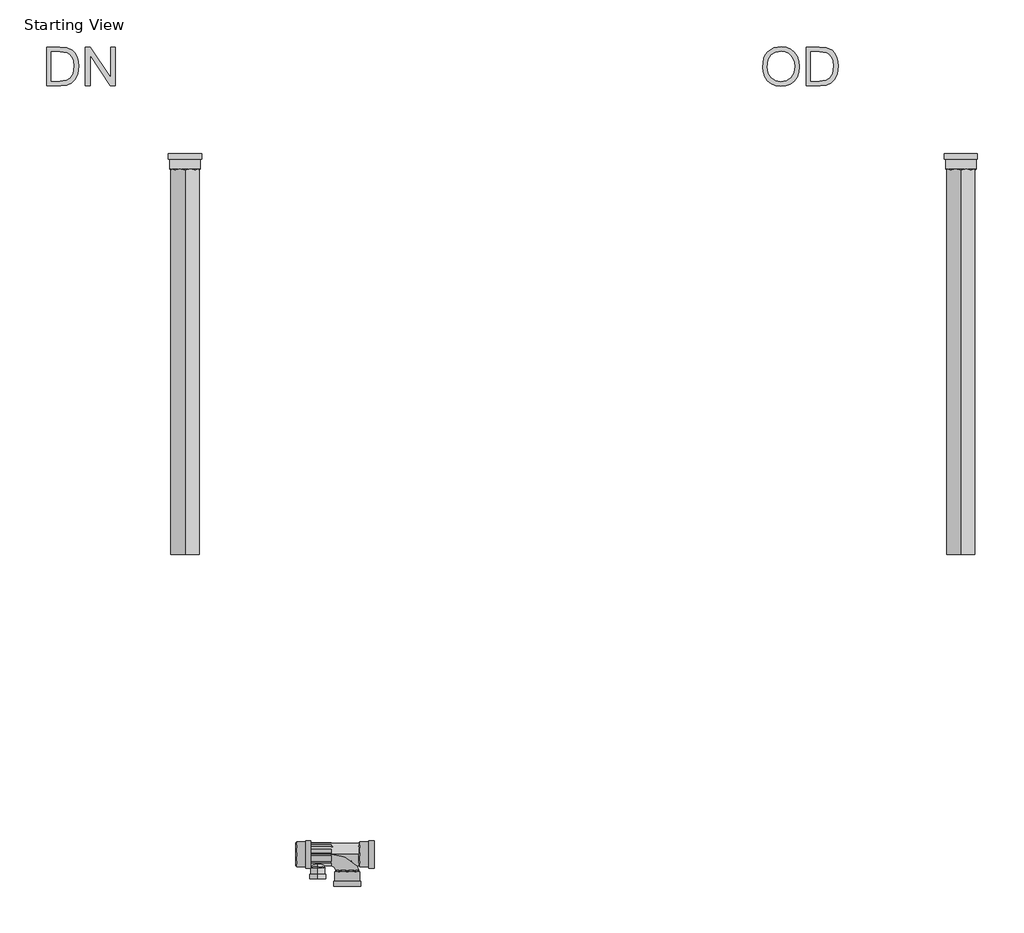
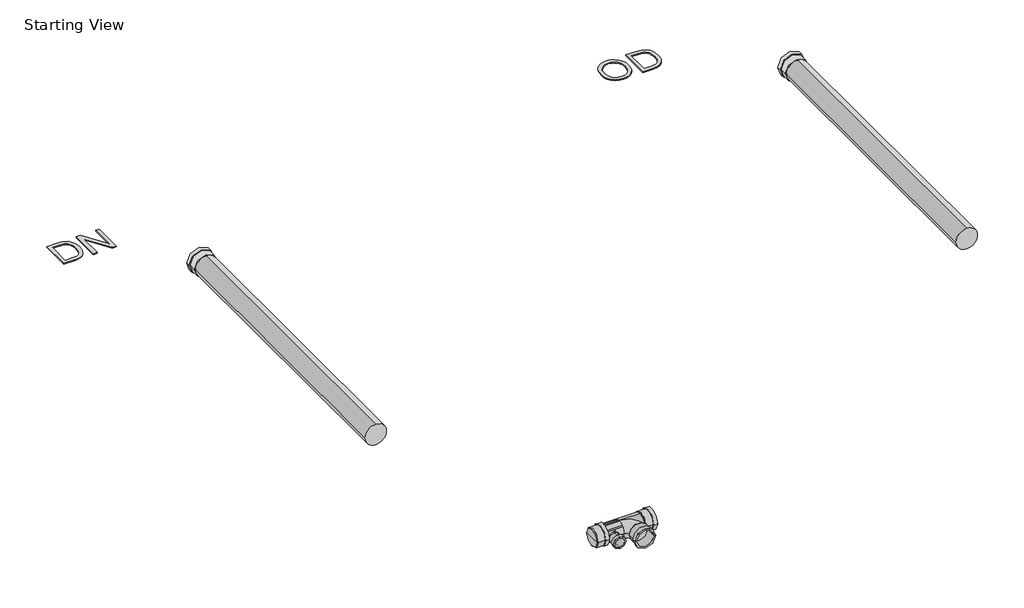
# One storey, incomplete: 4 pipe fittings, 2 pipe segments.
"""IFC4 building model written with IfcOpenShell, lengths in millimetres."""

import ifcopenshell
import ifcopenshell.guid

model = None  # the IFC model being written
_history = None  # IfcOwnerHistory: only IFC2X3 demands one
_inside = {}  # id of a spatial element -> (the spatial element, [elements in it])
_under = {}  # id of a project, library or spatial element -> (it, [spatial elements below it])
_declared = {}  # id of a project -> (the project, [libraries it declares])
_typed = {}  # id of a type object -> (the type object, [elements of that type])
_made_of = {}  # id of a material, layer set ... -> (it, [elements and type objects made of it])


def new_model(schema):
    """Start an empty IFC model of exactly this schema.

    Asked for "IFC4X3", IfcOpenShell would pick the latest addendum, in which some entities
    have other attributes; the version numbers below select the first issue.
    IFC2X3 requires an IfcOwnerHistory on every rooted entity: one is made here for all.
    """
    global model, _history
    if schema == "IFC4X3":
        model = ifcopenshell.file(schema_version=(4, 3, 0, 0))
    else:
        model = ifcopenshell.file(schema=schema)
    _inside.clear()
    _under.clear()
    _declared.clear()
    _typed.clear()
    _made_of.clear()
    _history = None
    if model.schema == "IFC2X3":
        org = make("IfcOrganization", Name="unknown")
        user = make(
            "IfcPersonAndOrganization",
            ThePerson=make("IfcPerson", FamilyName="unknown"),
            TheOrganization=org,
        )
        app = make(
            "IfcApplication",
            ApplicationDeveloper=org,
            Version="unknown",
            ApplicationFullName="unknown",
            ApplicationIdentifier="unknown",
        )
        _history = make(
            "IfcOwnerHistory",
            OwningUser=user,
            OwningApplication=app,
            ChangeAction="ADDED",
            CreationDate=0,
        )
    return model


def make(cls, **values):
    """One entity of the class cls with the attributes given. An attribute that is None is left unset."""
    return model.create_entity(
        cls, **{name: value for name, value in values.items() if value is not None}
    )


def rooted(cls, **values):
    """An entity with a GlobalId (a new one), such as an element, a storey or a relation."""
    return make(cls, GlobalId=ifcopenshell.guid.new(), OwnerHistory=_history, **values)


def si_unit(unit_type, name, prefix=None):
    """IfcSIUnit, for example si_unit("LENGTHUNIT", "METRE", prefix="MILLI")."""
    return make("IfcSIUnit", UnitType=unit_type, Prefix=prefix, Name=name)


def assignment(units):
    """IfcUnitAssignment: the units of a project."""
    return None if units is None else make("IfcUnitAssignment", Units=units)


def point(xyz):
    """IfcCartesianPoint."""
    return None if xyz is None else make("IfcCartesianPoint", Coordinates=xyz)


def direction(xyz):
    """IfcDirection."""
    return None if xyz is None else make("IfcDirection", DirectionRatios=xyz)


def frame(location, z_axis=None, x_axis=None):
    """IfcAxis2Placement3D, a coordinate frame: its origin and axes. An axis left out is left unset."""
    return make(
        "IfcAxis2Placement3D",
        Location=point(location),
        Axis=direction(z_axis),
        RefDirection=direction(x_axis),
    )


def frame_2d(location, x_axis=None):
    """IfcAxis2Placement2D, a coordinate frame in the plane: its origin and x axis."""
    return make(
        "IfcAxis2Placement2D", Location=point(location), RefDirection=direction(x_axis)
    )


def origin():
    """The frame at (0, 0, 0) with its axes left unset."""
    return frame((0.0, 0.0, 0.0))


def origin_with_axes():
    """The frame at (0, 0, 0) with the z axis (0, 0, 1) and the x axis (1, 0, 0) written out."""
    return frame((0.0, 0.0, 0.0), z_axis=(0.0, 0.0, 1.0), x_axis=(1.0, 0.0, 0.0))


def origin_2d():
    """The frame at (0, 0) in the plane with its x axis left unset."""
    return frame_2d((0.0, 0.0))


def place(relative_to, where):
    """IfcLocalPlacement: puts the frame where relative to a parent placement (None: the world)."""
    return make(
        "IfcLocalPlacement", PlacementRelTo=relative_to, RelativePlacement=where
    )


def context(
    kind, dimensions, precision=None, world=None, true_north=None, identifier=None
):
    """IfcGeometricRepresentationContext, for example the 3D "Model" context."""
    return make(
        "IfcGeometricRepresentationContext",
        ContextIdentifier=identifier,
        ContextType=kind,
        CoordinateSpaceDimension=dimensions,
        Precision=precision,
        WorldCoordinateSystem=world,
        TrueNorth=true_north,
    )


def project(units=None, contexts=None):
    """IfcProject with its units and contexts."""
    return rooted(
        "IfcProject",
        Name="project",
        RepresentationContexts=contexts,
        UnitsInContext=assignment(units),
    )


def spatial(cls, under=None, at=None, **own):
    """A site, building, storey or space (cls), placed at a placement, below another one or the project."""
    s = rooted(cls, ObjectPlacement=at, **own)
    if under is not None:
        _under.setdefault(under.id(), (under, []))[1].append(s)
    return s


def polyline(points):
    """IfcPolyline through the points."""
    return make("IfcPolyline", Points=[point(p) for p in points])


def circle_curve(where, radius):
    """IfcCircle in the frame where."""
    return make("IfcCircle", Position=where, Radius=radius)


def ellipse_curve(where, semi_axis1, semi_axis2):
    """IfcEllipse in the frame where."""
    return make(
        "IfcEllipse", Position=where, SemiAxis1=semi_axis1, SemiAxis2=semi_axis2
    )


def trimmed(basis, trim1, trim2, sense, master):
    """IfcTrimmedCurve: the piece of a basis curve between two trims."""
    return make(
        "IfcTrimmedCurve",
        BasisCurve=basis,
        Trim1=trim1,
        Trim2=trim2,
        SenseAgreement=sense,
        MasterRepresentation=master,
    )


def segment(curve, same_sense, transition):
    """IfcCompositeCurveSegment."""
    return make(
        "IfcCompositeCurveSegment",
        Transition=transition,
        SameSense=same_sense,
        ParentCurve=curve,
    )


def composite_curve(segments, self_intersect=None):
    """IfcCompositeCurve: segments joined end to end."""
    return make("IfcCompositeCurve", Segments=segments, SelfIntersect=self_intersect)


def outline(outer, holes=None, kind="AREA"):
    """IfcArbitraryClosedProfileDef: a profile drawn as a closed curve; with holes, ...WithVoids."""
    if holes is None:
        return make("IfcArbitraryClosedProfileDef", ProfileType=kind, OuterCurve=outer)
    return make(
        "IfcArbitraryProfileDefWithVoids",
        ProfileType=kind,
        OuterCurve=outer,
        InnerCurves=holes,
    )


def extrude(swept, where, along, depth):
    """IfcExtrudedAreaSolid: the profile swept, set in the frame where, extruded along a direction by depth."""
    return make(
        "IfcExtrudedAreaSolid",
        SweptArea=swept,
        Position=where,
        ExtrudedDirection=direction(along),
        Depth=depth,
    )


def shape(context_of_items, identifier, shape_type, items):
    """IfcShapeRepresentation: the items that make up one representation, for example the "Body"."""
    return make(
        "IfcShapeRepresentation",
        ContextOfItems=context_of_items,
        RepresentationIdentifier=identifier,
        RepresentationType=shape_type,
        Items=items,
    )


def source(mapping_origin, context_of_items, identifier, shape_type, items):
    """IfcRepresentationMap: a shape defined once, which mapped items show again and again."""
    return make(
        "IfcRepresentationMap",
        MappingOrigin=mapping_origin,
        MappedRepresentation=shape(context_of_items, identifier, shape_type, items),
    )


def transform(
    local_origin,
    x_axis=None,
    y_axis=None,
    z_axis=None,
    scale=None,
    scale2=None,
    scale3=None,
    uniform=True,
):
    """IfcCartesianTransformationOperator3D, or its non-uniform kind. x_axis, y_axis, z_axis: its Axis1, 2, 3."""
    if uniform:
        return make(
            "IfcCartesianTransformationOperator3D",
            Axis1=direction(x_axis),
            Axis2=direction(y_axis),
            LocalOrigin=point(local_origin),
            Scale=scale,
            Axis3=direction(z_axis),
        )
    return make(
        "IfcCartesianTransformationOperator3DnonUniform",
        Axis1=direction(x_axis),
        Axis2=direction(y_axis),
        LocalOrigin=point(local_origin),
        Scale=scale,
        Axis3=direction(z_axis),
        Scale2=scale2,
        Scale3=scale3,
    )


def mapped(mapping_source, mapping_target):
    """IfcMappedItem: shows the shape of a source again, moved by a transform."""
    return make(
        "IfcMappedItem", MappingSource=mapping_source, MappingTarget=mapping_target
    )


def made_of(thing, what):
    """Note that an element or type object is made of a material, layer set ...; save() writes the relation."""
    if what is not None:
        _made_of.setdefault(what.id(), (what, []))[1].append(thing)
    return thing


def element(
    cls,
    number,
    at=None,
    inside=None,
    cuts=None,
    type_object=None,
    material=None,
    context=None,
    identifier="Body",
    shape_type=None,
    held_by="IfcProductDefinitionShape",
    body=None,
    shapes=None,
    **own,
):
    """One element of the class cls, such as IfcWall. Its Tag is "e" and its number.

    at: its placement. inside: the storey or other place that contains it. cuts: it is an
    opening in that element (IfcRelVoidsElement). A single representation is given by context,
    identifier, shape_type and body (its items); several are given by shapes. held_by: the class
    of the entity that holds the representations. save() writes the other relations.
    """
    e = rooted(cls, Tag="e%d" % number, ObjectPlacement=at, **own)
    if body is not None:
        shapes = [shape(context, identifier, shape_type, body)]
    if shapes is not None:
        e.Representation = make(held_by, Representations=shapes)
    if inside is not None:
        _inside.setdefault(inside.id(), (inside, []))[1].append(e)
    if cuts is not None:
        rooted(
            "IfcRelVoidsElement", RelatingBuildingElement=cuts, RelatedOpeningElement=e
        )
    if type_object is not None:
        _typed.setdefault(type_object.id(), (type_object, []))[1].append(e)
    return made_of(e, material)


def aggregate(whole, parts):
    """IfcRelAggregates: a whole, such as a stair, and the parts it consists of."""
    return rooted("IfcRelAggregates", RelatingObject=whole, RelatedObjects=parts)


def save(model, path):
    """Write the relations noted so far, then the file.

    IfcRelAggregates (storeys below a building ...), IfcRelContainedInSpatialStructure (elements
    in a storey), IfcRelDefinesByType, IfcRelAssociatesMaterial and IfcRelDeclares: one each for
    every whole, place, type object, material and project.
    """
    for whole, parts in _under.values():
        aggregate(whole, parts)
    for where, things in _inside.values():
        rooted(
            "IfcRelContainedInSpatialStructure",
            RelatedElements=things,
            RelatingStructure=where,
        )
    for kind, things in _typed.values():
        rooted("IfcRelDefinesByType", RelatedObjects=things, RelatingType=kind)
    for what, things in _made_of.values():
        rooted("IfcRelAssociatesMaterial", RelatedObjects=things, RelatingMaterial=what)
    for by, libraries in _declared.values():
        rooted("IfcRelDeclares", RelatingContext=by, RelatedDefinitions=libraries)
    model.write(path)


def plane_surface(at):
    """IfcPlane: the flat surface through the origin of the frame at, square to its z axis."""
    return make("IfcPlane", Position=at)


def cylinder_surface(at, radius):
    """IfcCylindricalSurface: all points at the distance radius from the z axis of the frame at."""
    return make("IfcCylindricalSurface", Position=at, Radius=radius)


def revolved_surface(curve, axis_point, axis_direction):
    """IfcSurfaceOfRevolution: the curve turned about the line through axis_point along axis_direction."""
    return make(
        "IfcSurfaceOfRevolution",
        SweptCurve=make("IfcArbitraryOpenProfileDef", ProfileType="CURVE", Curve=curve),
        AxisPosition=make("IfcAxis1Placement", Location=point(axis_point), Axis=direction(axis_direction)),
    )


def advanced_brep(points, edges, surfaces, faces):
    """IfcAdvancedBrep: a solid bounded by faces that lie on surfaces and meet in shared edges.

    An edge is (start, end): straight between two places in points (the first is 0);
    or (start, end, curve); or (start, end, curve, False) where it runs against its curve.
    A face is (place in surfaces, loops), or (place, loops, False) where it looks against
    its surface's normal. A loop lists edges by number (the first is 1), with a minus sign
    where the edge is run from its end to its start. The first loop is the outer one.
    """
    corners = [point(p) for p in points]
    vertices = [make("IfcVertexPoint", VertexGeometry=c) for c in corners]
    made = []
    for start, end, *more in edges:
        made.append(
            make(
                "IfcEdgeCurve",
                EdgeStart=vertices[start],
                EdgeEnd=vertices[end],
                EdgeGeometry=more[0] if more else make("IfcPolyline", Points=[corners[start], corners[end]]),
                SameSense=more[1] if len(more) > 1 else True,
            )
        )
    hull = []
    for where, loops, *sense in faces:
        bounds = []
        for j, loop in enumerate(loops):
            ring = [make("IfcOrientedEdge", EdgeElement=made[abs(k) - 1], Orientation=k > 0) for k in loop]
            bounds.append(
                make(
                    "IfcFaceOuterBound" if j == 0 else "IfcFaceBound",
                    Bound=make("IfcEdgeLoop", EdgeList=ring),
                    Orientation=True,
                )
            )
        hull.append(make("IfcAdvancedFace", Bounds=bounds, FaceSurface=surfaces[where], SameSense=sense[0] if sense else True))
    return make("IfcAdvancedBrep", Outer=make("IfcClosedShell", CfsFaces=hull))


def pif_as_branch_shower_wavin_a978f990(model_context):
    return source(origin(), model_context, "Body", "SolidModel", [
        advanced_brep(
        [(-114.0, -48.3, -24.75), (-114.0, -48.3, 24.75), (-114.0, -51.3, 28.0), (-114.0, -51.3, -28.0), (-114.0, -48.3, 0.0), (-114.0, -51.3, -24.75), (-114.0, -51.3, 24.75), (-114.0, -51.3, 0.0), (-114.0, -95.3, -24.75), (-114.0, -95.3, 24.75), (-114.0, -95.3, -32.35), (-114.0, -95.3, 32.35), (-114.0, -78.3, -32.35), (-114.0, -78.3, 32.35), (-114.0, -78.3, -28.0), (-114.0, -78.3, 28.0)],
        [
            (0, 1, circle_curve(frame((-114.0, -48.3, 0.0), z_axis=(0.0, -1.0, 0.0), x_axis=(0.0, 0.0, 1.0)), 24.75)),
            (1, 2),
            (2, 3, circle_curve(frame((-114.0, -51.3, 0.0), z_axis=(0.0, 1.0, 0.0), x_axis=(0.0, 0.0, 1.0)), 28.0)),
            (3, 0),
            (1, 0, circle_curve(frame((-114.0, -48.3, 0.0), z_axis=(0.0, -1.0, 0.0), x_axis=(0.0, 0.0, 1.0)), 24.75)),
            (3, 2, circle_curve(frame((-114.0, -51.3, 0.0), z_axis=(0.0, 1.0, 0.0), x_axis=(0.0, 0.0, 1.0)), 28.0)),
            (4, 1),
            (0, 4),
            (5, 6, circle_curve(frame((-114.0, -51.3, 0.0), z_axis=(0.0, -1.0, 0.0), x_axis=(0.0, 0.0, 1.0)), 24.75)),
            (6, 7),
            (7, 5),
            (6, 5, circle_curve(frame((-114.0, -51.3, 0.0), z_axis=(0.0, -1.0, 0.0), x_axis=(0.0, 0.0, 1.0)), 24.75)),
            (8, 9, circle_curve(frame((-114.0, -95.3, 0.0), z_axis=(0.0, -1.0, 0.0), x_axis=(0.0, 0.0, 1.0)), 24.75)),
            (9, 6),
            (5, 8),
            (9, 8, circle_curve(frame((-114.0, -95.3, 0.0), z_axis=(0.0, -1.0, 0.0), x_axis=(0.0, 0.0, 1.0)), 24.75)),
            (10, 11, circle_curve(frame((-114.0, -95.3, 0.0), z_axis=(0.0, -1.0, 0.0), x_axis=(0.0, 0.0, 1.0)), 32.35)),
            (11, 9),
            (8, 10),
            (11, 10, circle_curve(frame((-114.0, -95.3, 0.0), z_axis=(0.0, -1.0, 0.0), x_axis=(0.0, 0.0, 1.0)), 32.35)),
            (12, 13, circle_curve(frame((-114.0, -78.3, 0.0), z_axis=(0.0, -1.0, 0.0), x_axis=(0.0, 0.0, 1.0)), 32.35)),
            (13, 11),
            (10, 12),
            (13, 12, circle_curve(frame((-114.0, -78.3, 0.0), z_axis=(0.0, -1.0, 0.0), x_axis=(0.0, 0.0, 1.0)), 32.35)),
            (14, 15, circle_curve(frame((-114.0, -78.3, 0.0), z_axis=(0.0, -1.0, 0.0), x_axis=(0.0, 0.0, 1.0)), 28.0)),
            (15, 13),
            (12, 14),
            (15, 14, circle_curve(frame((-114.0, -78.3, 0.0), z_axis=(0.0, -1.0, 0.0), x_axis=(0.0, 0.0, 1.0)), 28.0)),
            (2, 15),
            (14, 3),
        ],
        [
            revolved_surface(polyline([(-114.0, -51.3, 28.0), (-114.0, -48.3, 24.75)]), (-114.0, -1998.4265064, 0.0), (0.0, 1.0, 0.0)),
            plane_surface(frame((-114.0, -48.3, 0.0), z_axis=(0.0, 1.0, 0.0), x_axis=(0.0, 0.0, 1.0))),
            plane_surface(frame((-114.0, -51.3, 0.0), z_axis=(0.0, -1.0, 0.0), x_axis=(0.0, 0.0, 1.0))),
            revolved_surface(polyline([(-114.0, -51.299999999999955, 24.75), (-114.0, -95.29999999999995, 24.75)]), (-114.0, -1998.4265064, 0.0), (0.0, 1.0, 0.0)),
            plane_surface(frame((-114.0, -95.3, 0.0), z_axis=(0.0, -1.0, 0.0), x_axis=(0.0, 0.0, 1.0))),
            cylinder_surface(frame((-114.0, -1998.4265064, 0.0), z_axis=(0.0, 1.0, 0.0), x_axis=(0.0, 0.0, 1.0)), 32.35),
            plane_surface(frame((-114.0, -78.3, 0.0), z_axis=(0.0, 1.0, 0.0), x_axis=(0.0, 0.0, 1.0))),
            cylinder_surface(frame((-114.0, -1998.4265064, 0.0), z_axis=(0.0, 1.0, 0.0), x_axis=(0.0, 0.0, 1.0)), 28.0),
        ],
        [
            (0, [[1, 2, 3, 4]]),
            (0, [[5, -4, 6, -2]]),
            (1, [[7, -1, 8]]),
            (1, [[-8, -5, -7]]),
            (2, [[9, 10, 11]]),
            (2, [[12, -11, -10]]),
            (3, [[13, 14, -9, 15]]),
            (3, [[16, -15, -12, -14]]),
            (4, [[17, 18, -13, 19]]),
            (4, [[20, -19, -16, -18]]),
            (5, [[21, 22, -17, 23]]),
            (5, [[24, -23, -20, -22]]),
            (6, [[25, 26, -21, 27]]),
            (6, [[28, -27, -24, -26]]),
            (7, [[-3, 29, -25, 30]]),
            (7, [[-6, -30, -28, -29]]),
        ],
    ),
        advanced_brep(
        [(-200.4, -45.0, 0.0), (-200.4, 45.0, 0.0), (-196.8, 49.0, 0.0), (-196.8, -49.0, 0.0), (-200.4, 0.0, 0.0), (-196.8, -45.0, 0.0), (-196.8, 45.0, 0.0), (-196.8, 0.0, 0.0), (-141.1, -45.0, 0.0), (-141.1, 45.0, 0.0), (-141.1, -53.25, 0.0), (-141.1, 53.25, 0.0), (-160.7, -53.25, 0.0), (-160.7, 53.25, 0.0), (-160.7, -49.0, 0.0), (-160.7, 49.0, 0.0)],
        [
            (0, 1, circle_curve(frame((-200.4, 0.0, 0.0), z_axis=(1.0, 0.0, 0.0), x_axis=(0.0, 1.0, 0.0)), 45.0)),
            (1, 2),
            (2, 3, circle_curve(frame((-196.8, 0.0, 0.0), z_axis=(-1.0, 0.0, 0.0), x_axis=(0.0, 1.0, 0.0)), 49.0)),
            (3, 0),
            (1, 0, circle_curve(frame((-200.4, 0.0, 0.0), z_axis=(1.0, 0.0, 0.0), x_axis=(0.0, 1.0, 0.0)), 45.0)),
            (3, 2, circle_curve(frame((-196.8, 0.0, 0.0), z_axis=(-1.0, 0.0, 0.0), x_axis=(0.0, 1.0, 0.0)), 49.0)),
            (4, 1),
            (0, 4),
            (5, 6, circle_curve(frame((-196.8, 0.0, 0.0), z_axis=(1.0, 0.0, 0.0), x_axis=(0.0, 1.0, 0.0)), 45.0)),
            (6, 7),
            (7, 5),
            (6, 5, circle_curve(frame((-196.8, 0.0, 0.0), z_axis=(1.0, 0.0, 0.0), x_axis=(0.0, 1.0, 0.0)), 45.0)),
            (8, 9, circle_curve(frame((-141.1, 0.0, 0.0), z_axis=(1.0, 0.0, 0.0), x_axis=(0.0, 1.0, 0.0)), 45.0)),
            (9, 6),
            (5, 8),
            (9, 8, circle_curve(frame((-141.1, 0.0, 0.0), z_axis=(1.0, 0.0, 0.0), x_axis=(0.0, 1.0, 0.0)), 45.0)),
            (10, 11, circle_curve(frame((-141.1, 0.0, 0.0), z_axis=(1.0, 0.0, 0.0), x_axis=(0.0, 1.0, 0.0)), 53.25)),
            (11, 9),
            (8, 10),
            (11, 10, circle_curve(frame((-141.1, 0.0, 0.0), z_axis=(1.0, 0.0, 0.0), x_axis=(0.0, 1.0, 0.0)), 53.25)),
            (12, 13, circle_curve(frame((-160.7, 0.0, 0.0), z_axis=(1.0, 0.0, 0.0), x_axis=(0.0, 1.0, 0.0)), 53.25)),
            (13, 11),
            (10, 12),
            (13, 12, circle_curve(frame((-160.7, 0.0, 0.0), z_axis=(1.0, 0.0, 0.0), x_axis=(0.0, 1.0, 0.0)), 53.25)),
            (14, 15, circle_curve(frame((-160.7, 0.0, 0.0), z_axis=(1.0, 0.0, 0.0), x_axis=(0.0, 1.0, 0.0)), 49.0)),
            (15, 13),
            (12, 14),
            (15, 14, circle_curve(frame((-160.7, 0.0, 0.0), z_axis=(1.0, 0.0, 0.0), x_axis=(0.0, 1.0, 0.0)), 49.0)),
            (2, 15),
            (14, 3),
        ],
        [
            revolved_surface(polyline([(-196.8, 49.0, 0.0), (-200.4, 45.0, 0.0)]), (1762.0265064, 0.0, 0.0), (-1.0, 0.0, 0.0)),
            plane_surface(frame((-200.4, 0.0, 0.0), z_axis=(-1.0, 0.0, 0.0), x_axis=(0.0, 1.0, 0.0))),
            plane_surface(frame((-196.8, 0.0, 0.0), z_axis=(1.0, 0.0, 0.0), x_axis=(0.0, 1.0, 0.0))),
            revolved_surface(polyline([(-196.79999999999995, 45.0, 0.0), (-141.0999999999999, 45.0, 0.0)]), (1762.0265064, 0.0, 0.0), (-1.0, 0.0, 0.0)),
            plane_surface(frame((-141.1, 0.0, 0.0), z_axis=(1.0, 0.0, 0.0), x_axis=(0.0, 1.0, 0.0))),
            cylinder_surface(frame((1762.0265064, 0.0, 0.0), z_axis=(-1.0, 0.0, 0.0), x_axis=(0.0, 1.0, 0.0)), 53.25),
            plane_surface(frame((-160.7, 0.0, 0.0), z_axis=(-1.0, 0.0, 0.0), x_axis=(0.0, 1.0, 0.0))),
            cylinder_surface(frame((1762.0265064, 0.0, 0.0), z_axis=(-1.0, 0.0, 0.0), x_axis=(0.0, 1.0, 0.0)), 49.0),
        ],
        [
            (0, [[1, 2, 3, 4]]),
            (0, [[5, -4, 6, -2]]),
            (1, [[7, -1, 8]]),
            (1, [[-8, -5, -7]]),
            (2, [[9, 10, 11]]),
            (2, [[12, -11, -10]]),
            (3, [[13, 14, -9, 15]]),
            (3, [[16, -15, -12, -14]]),
            (4, [[17, 18, -13, 19]]),
            (4, [[20, -19, -16, -18]]),
            (5, [[21, 22, -17, 23]]),
            (5, [[24, -23, -20, -22]]),
            (6, [[25, 26, -21, 27]]),
            (6, [[28, -27, -24, -26]]),
            (7, [[-3, 29, -25, 30]]),
            (7, [[-6, -30, -28, -29]]),
        ],
    ),
        advanced_brep(
        [(-45.0, -64.8, 0.0), (45.0, -64.8, 0.0), (49.0, -68.4, 0.0), (-49.0, -68.4, 0.0), (0.0, -64.8, 0.0), (-45.0, -68.4, 0.0), (45.0, -68.4, 0.0), (0.0, -68.4, 0.0), (-45.0, -124.1, 0.0), (45.0, -124.1, 0.0), (-53.25, -124.1, 0.0), (53.25, -124.1, 0.0), (-53.25, -104.5, 0.0), (53.25, -104.5, 0.0), (-49.0, -104.5, 0.0), (49.0, -104.5, 0.0)],
        [
            (0, 1, circle_curve(frame((0.0, -64.8, 0.0), z_axis=(0.0, -1.0, 0.0), x_axis=(1.0000000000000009, 0.0, 0.0)), 45.0)),
            (1, 2),
            (2, 3, circle_curve(frame((0.0, -68.4, 0.0), z_axis=(0.0, 1.0, 0.0), x_axis=(1.0000000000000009, 0.0, 0.0)), 49.0)),
            (3, 0),
            (1, 0, circle_curve(frame((0.0, -64.8, 0.0), z_axis=(0.0, -1.0, 0.0), x_axis=(1.0000000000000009, 0.0, 0.0)), 45.0)),
            (3, 2, circle_curve(frame((0.0, -68.4, 0.0), z_axis=(0.0, 1.0, 0.0), x_axis=(1.0000000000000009, 0.0, 0.0)), 49.0)),
            (4, 1),
            (0, 4),
            (5, 6, circle_curve(frame((0.0, -68.4, 0.0), z_axis=(0.0, -1.0, 0.0), x_axis=(1.0000000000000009, 0.0, 0.0)), 45.0)),
            (6, 7),
            (7, 5),
            (6, 5, circle_curve(frame((0.0, -68.4, 0.0), z_axis=(0.0, -1.0, 0.0), x_axis=(1.0000000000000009, 0.0, 0.0)), 45.0)),
            (8, 9, circle_curve(frame((0.0, -124.1, 0.0), z_axis=(0.0, -1.0, 0.0), x_axis=(1.0000000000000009, 0.0, 0.0)), 45.0)),
            (9, 6),
            (5, 8),
            (9, 8, circle_curve(frame((0.0, -124.1, 0.0), z_axis=(0.0, -1.0, 0.0), x_axis=(1.0000000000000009, 0.0, 0.0)), 45.0)),
            (10, 11, circle_curve(frame((0.0, -124.1, 0.0), z_axis=(0.0, -1.0, 0.0), x_axis=(1.0000000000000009, 0.0, 0.0)), 53.25)),
            (11, 9),
            (8, 10),
            (11, 10, circle_curve(frame((0.0, -124.1, 0.0), z_axis=(0.0, -1.0, 0.0), x_axis=(1.0000000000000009, 0.0, 0.0)), 53.25)),
            (12, 13, circle_curve(frame((0.0, -104.5, 0.0), z_axis=(0.0, -1.0, 0.0), x_axis=(1.0000000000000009, 0.0, 0.0)), 53.25)),
            (13, 11),
            (10, 12),
            (13, 12, circle_curve(frame((0.0, -104.5, 0.0), z_axis=(0.0, -1.0, 0.0), x_axis=(1.0000000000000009, 0.0, 0.0)), 53.25)),
            (14, 15, circle_curve(frame((0.0, -104.5, 0.0), z_axis=(0.0, -1.0, 0.0), x_axis=(1.0000000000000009, 0.0, 0.0)), 49.0)),
            (15, 13),
            (12, 14),
            (15, 14, circle_curve(frame((0.0, -104.5, 0.0), z_axis=(0.0, -1.0, 0.0), x_axis=(1.0000000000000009, 0.0, 0.0)), 49.0)),
            (2, 15),
            (14, 3),
        ],
        [
            revolved_surface(polyline([(49.0, -68.4, 0.0), (45.0, -64.8, 0.0)]), (0.0, -2027.2265064, 0.0), (0.0, 1.0000000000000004, 0.0)),
            plane_surface(frame((0.0, -64.8, 0.0), z_axis=(0.0, 1.0, 0.0), x_axis=(1.0, 0.0, 0.0))),
            plane_surface(frame((0.0, -68.4, 0.0), z_axis=(0.0, -1.0, 0.0), x_axis=(1.0, 0.0, 0.0))),
            revolved_surface(polyline([(45.00000000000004, -68.39999999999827, 0.0), (45.00000000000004, -124.09999999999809, 0.0)]), (0.0, -2027.2265064, 0.0), (0.0, 1.0000000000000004, 0.0)),
            plane_surface(frame((0.0, -124.1, 0.0), z_axis=(0.0, -1.0, 0.0), x_axis=(1.0, 0.0, 0.0))),
            cylinder_surface(frame((0.0, -2027.2265064, 0.0), z_axis=(0.0, 1.0000000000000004, 0.0), x_axis=(1.0000000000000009, 0.0, 0.0)), 53.25),
            plane_surface(frame((0.0, -104.5, 0.0), z_axis=(0.0, 1.0, 0.0), x_axis=(1.0, 0.0, 0.0))),
            cylinder_surface(frame((0.0, -2027.2265064, 0.0), z_axis=(0.0, 1.0000000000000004, 0.0), x_axis=(1.0000000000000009, 0.0, 0.0)), 49.0),
        ],
        [
            (0, [[1, 2, 3, 4]]),
            (0, [[5, -4, 6, -2]]),
            (1, [[7, -1, 8]]),
            (1, [[-8, -5, -7]]),
            (2, [[9, 10, 11]]),
            (2, [[12, -11, -10]]),
            (3, [[13, 14, -9, 15]]),
            (3, [[16, -15, -12, -14]]),
            (4, [[17, 18, -13, 19]]),
            (4, [[20, -19, -16, -18]]),
            (5, [[21, 22, -17, 23]]),
            (5, [[24, -23, -20, -22]]),
            (6, [[25, 26, -21, 27]]),
            (6, [[28, -27, -24, -26]]),
            (7, [[-3, 29, -25, 30]]),
            (7, [[-6, -30, -28, -29]]),
        ],
    ),
        advanced_brep(
        [(45.0, -45.0, 0.0), (45.0, 45.0, 0.0), (48.6, 49.0, 0.0), (48.6, -49.0, 0.0), (45.0, 0.0, 0.0), (48.6, -45.0, 0.0), (48.6, 45.0, 0.0), (48.6, 0.0, 0.0), (104.3, -45.0, 0.0), (104.3, 45.0, 0.0), (104.3, -53.25, 0.0), (104.3, 53.25, 0.0), (84.7, -53.25, 0.0), (84.7, 53.25, 0.0), (84.7, -49.0, 0.0), (84.7, 49.0, 0.0)],
        [
            (0, 1, circle_curve(frame((45.0, 0.0, 0.0), z_axis=(1.0, 0.0, 0.0), x_axis=(0.0, 1.0000000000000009, 0.0)), 45.0)),
            (1, 2),
            (2, 3, circle_curve(frame((48.6, 0.0, 0.0), z_axis=(-1.0, 0.0, 0.0), x_axis=(0.0, 1.0000000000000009, 0.0)), 49.0)),
            (3, 0),
            (1, 0, circle_curve(frame((45.0, 0.0, 0.0), z_axis=(1.0, 0.0, 0.0), x_axis=(0.0, 1.0000000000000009, 0.0)), 45.0)),
            (3, 2, circle_curve(frame((48.6, 0.0, 0.0), z_axis=(-1.0, 0.0, 0.0), x_axis=(0.0, 1.0000000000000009, 0.0)), 49.0)),
            (4, 1),
            (0, 4),
            (5, 6, circle_curve(frame((48.6, 0.0, 0.0), z_axis=(1.0, 0.0, 0.0), x_axis=(0.0, 1.0000000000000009, 0.0)), 45.0)),
            (6, 7),
            (7, 5),
            (6, 5, circle_curve(frame((48.6, 0.0, 0.0), z_axis=(1.0, 0.0, 0.0), x_axis=(0.0, 1.0000000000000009, 0.0)), 45.0)),
            (8, 9, circle_curve(frame((104.3, 0.0, 0.0), z_axis=(1.0, 0.0, 0.0), x_axis=(0.0, 1.0000000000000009, 0.0)), 45.0)),
            (9, 6),
            (5, 8),
            (9, 8, circle_curve(frame((104.3, 0.0, 0.0), z_axis=(1.0, 0.0, 0.0), x_axis=(0.0, 1.0000000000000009, 0.0)), 45.0)),
            (10, 11, circle_curve(frame((104.3, 0.0, 0.0), z_axis=(1.0, 0.0, 0.0), x_axis=(0.0, 1.0000000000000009, 0.0)), 53.25)),
            (11, 9),
            (8, 10),
            (11, 10, circle_curve(frame((104.3, 0.0, 0.0), z_axis=(1.0, 0.0, 0.0), x_axis=(0.0, 1.0000000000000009, 0.0)), 53.25)),
            (12, 13, circle_curve(frame((84.7, 0.0, 0.0), z_axis=(1.0, 0.0, 0.0), x_axis=(0.0, 1.0000000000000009, 0.0)), 53.25)),
            (13, 11),
            (10, 12),
            (13, 12, circle_curve(frame((84.7, 0.0, 0.0), z_axis=(1.0, 0.0, 0.0), x_axis=(0.0, 1.0000000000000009, 0.0)), 53.25)),
            (14, 15, circle_curve(frame((84.7, 0.0, 0.0), z_axis=(1.0, 0.0, 0.0), x_axis=(0.0, 1.0000000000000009, 0.0)), 49.0)),
            (15, 13),
            (12, 14),
            (15, 14, circle_curve(frame((84.7, 0.0, 0.0), z_axis=(1.0, 0.0, 0.0), x_axis=(0.0, 1.0000000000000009, 0.0)), 49.0)),
            (2, 15),
            (14, 3),
        ],
        [
            revolved_surface(polyline([(48.6, 49.0, 0.0), (45.0, 45.0, 0.0)]), (2007.4265064, 0.0, 0.0), (-1.0000000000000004, 0.0, 0.0)),
            plane_surface(frame((45.0, 0.0, 0.0), z_axis=(-1.0, 0.0, 0.0), x_axis=(0.0, 1.0, 0.0))),
            plane_surface(frame((48.6, 0.0, 0.0), z_axis=(1.0, 0.0, 0.0), x_axis=(0.0, 1.0, 0.0))),
            revolved_surface(polyline([(48.59999999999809, 45.00000000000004, 0.0), (104.29999999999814, 45.00000000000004, 0.0)]), (2007.4265064, 0.0, 0.0), (-1.0000000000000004, 0.0, 0.0)),
            plane_surface(frame((104.3, 0.0, 0.0), z_axis=(1.0, 0.0, 0.0), x_axis=(0.0, 1.0, 0.0))),
            cylinder_surface(frame((2007.4265064, 0.0, 0.0), z_axis=(-1.0000000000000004, 0.0, 0.0), x_axis=(0.0, 1.0000000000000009, 0.0)), 53.25),
            plane_surface(frame((84.7, 0.0, 0.0), z_axis=(-1.0, 0.0, 0.0), x_axis=(0.0, 1.0, 0.0))),
            cylinder_surface(frame((2007.4265064, 0.0, 0.0), z_axis=(-1.0000000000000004, 0.0, 0.0), x_axis=(0.0, 1.0000000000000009, 0.0)), 49.0),
        ],
        [
            (0, [[1, 2, 3, 4]]),
            (0, [[5, -4, 6, -2]]),
            (1, [[7, -1, 8]]),
            (1, [[-8, -5, -7]]),
            (2, [[9, 10, 11]]),
            (2, [[12, -11, -10]]),
            (3, [[13, 14, -9, 15]]),
            (3, [[16, -15, -12, -14]]),
            (4, [[17, 18, -13, 19]]),
            (4, [[20, -19, -16, -18]]),
            (5, [[21, 22, -17, 23]]),
            (5, [[24, -23, -20, -22]]),
            (6, [[25, 26, -21, 27]]),
            (6, [[28, -27, -24, -26]]),
            (7, [[-3, 29, -25, 30]]),
            (7, [[-6, -30, -28, -29]]),
        ],
    ),
        advanced_brep(
        [(-196.8, -45.05, 0.0), (-196.8, 45.05, 0.0), (-61.56, -45.05, 0.0), (-61.56, 45.05, 0.0), (-45.05, -68.4, 0.0), (45.05, -68.4, 0.0), (45.05, -61.56, 0.0), (-45.05, -61.56, 0.0)],
        [
            (0, 1, circle_curve(frame((-196.8, 0.0, 0.0), z_axis=(-1.0, 0.0, 0.0), x_axis=(0.0, 1.0, 0.0)), 45.05)),
            (1, 0, circle_curve(frame((-196.8, 0.0, 0.0), z_axis=(-1.0, 0.0, 0.0), x_axis=(0.0, 1.0, 0.0)), 45.05)),
            (0, 2),
            (2, 3, circle_curve(frame((-61.56, 0.0, 0.0), z_axis=(-1.0, 0.0, 0.0), x_axis=(0.0, 1.0, 0.0)), 45.05)),
            (3, 1),
            (3, 2, circle_curve(frame((-61.56, 0.0, 0.0), z_axis=(-1.0, 0.0, 0.0), x_axis=(0.0, 1.0, 0.0)), 45.05)),
            (4, 5, circle_curve(frame((0.0, -68.4, 0.0), z_axis=(0.0, -1.0, 0.0), x_axis=(1.0, 0.0, 0.0)), 45.05)),
            (5, 4, circle_curve(frame((0.0, -68.4, 0.0), z_axis=(0.0, -1.0, 0.0), x_axis=(1.0, 0.0, 0.0)), 45.05)),
            (6, 7, circle_curve(frame((0.0, -61.56, 0.0), z_axis=(0.0, -1.0, 0.0), x_axis=(1.0, 0.0, 0.0)), 45.05)),
            (7, 4),
            (5, 6),
            (7, 6, circle_curve(frame((0.0, -61.56, 0.0), z_axis=(0.0, -1.0, 0.0), x_axis=(1.0, 0.0, 0.0)), 45.05)),
            (6, 3, circle_curve(frame((-61.56, -61.56, 0.0), z_axis=(0.0, 0.0, 1.0), x_axis=(0.0, 1.0, 0.0)), 106.61)),
            (2, 7, circle_curve(frame((-61.56, -61.56, 0.0), z_axis=(0.0, 0.0, -1.0), x_axis=(0.0, 1.0, 0.0)), 16.51)),
        ],
        [
            plane_surface(frame((-196.8, 0.0, 0.0), z_axis=(-1.0, 0.0, 0.0), x_axis=(0.0, 0.0, 1.0))),
            cylinder_surface(frame((-196.8, 0.0, 0.0), z_axis=(-1.0, 0.0, 0.0), x_axis=(0.0, 1.0, 0.0)), 45.05),
            plane_surface(frame((0.0, -68.4, 0.0), z_axis=(0.0, -1.0, 0.0), x_axis=(0.0, 0.0, 1.0))),
            cylinder_surface(frame((0.0, -61.56, 0.0), z_axis=(0.0, 1.0, 0.0), x_axis=(1.0, 0.0, 0.0)), 45.05),
            revolved_surface(trimmed(ellipse_curve(frame((-61.56, 0.0, 0.0), z_axis=(-1.0, 0.0, 0.0), x_axis=(0.0, 1.0, 0.0)), 45.05, 45.05), [point((-61.56, -45.05, 0.0))], [point((-61.56, 45.05, 0.0))], True, "CARTESIAN"), (-61.56, -61.56, 0.0), (0.0, 0.0, -1.0)),
            revolved_surface(trimmed(ellipse_curve(frame((-61.56, 0.0, 0.0), z_axis=(-1.0, 0.0, 0.0), x_axis=(0.0, 1.0, 0.0)), 45.05, 45.05), [point((-61.56, 45.05, 0.0))], [point((-61.56, -45.05, 0.0))], True, "CARTESIAN"), (-61.56, -61.56, 0.0), (0.0, 0.0, -1.0)),
        ],
        [
            (0, [[1, 2]]),
            (1, [[-1, 3, 4, 5]]),
            (1, [[-2, -5, 6, -3]]),
            (2, [[7, 8]]),
            (3, [[9, 10, -8, 11]]),
            (3, [[12, -11, -7, -10]]),
            (4, [[13, -4, 14, -9]]),
            (5, [[-14, -6, -13, -12]]),
        ],
    ),
        extrude(outline(composite_curve([segment(trimmed(circle_curve(frame_2d((0.0, -114.0)), 25.0), [point((-25.0, -114.0))], [point((25.0, -114.0))], False, "CARTESIAN"), True, "CONTINUOUS"), segment(trimmed(circle_curve(frame_2d((0.0, -114.0)), 25.0), [point((25.0, -114.0))], [point((-25.0, -114.0))], False, "CARTESIAN"), True, "CONTINUOUS")], self_intersect=False)), frame((0.0, -51.3, 0.0), z_axis=(0.0, 1.0, 0.0), x_axis=(0.0, 0.0, 1.0)), (0.0, 0.0, 1.0), 51.3),
        extrude(outline(composite_curve([segment(trimmed(circle_curve(origin_2d(), 45.05), [point((0.0, -45.05))], [point((0.0, 45.05))], False, "CARTESIAN"), True, "CONTINUOUS"), segment(trimmed(circle_curve(origin_2d(), 45.05), [point((0.0, 45.05))], [point((0.0, -45.05))], False, "CARTESIAN"), True, "CONTINUOUS")], self_intersect=False)), frame((-196.8, 0.0, 0.0), z_axis=(1.0, 0.0, 0.0), x_axis=(0.0, 1.0, 0.0)), (0.0, 0.0, 1.0), 245.4),
    ])


def pif_as_pipe_socket_wavin_socket_end_bd77a64f(model_context):
    return source(origin(), model_context, "Body", "AdvancedBrep", [
        advanced_brep(
        [(4.0, 55.4, 0.0), (4.0, -55.4, 0.0), (0.0, -59.4, 0.0), (0.0, 59.4, 0.0), (4.0, 0.0, 0.0), (0.0, 55.4, 0.0), (0.0, -55.4, 0.0), (0.0, 0.0, 0.0), (-59.7, 55.4, 0.0), (-59.7, -55.4, 0.0), (-59.7, 64.7, 0.0), (-59.7, -64.7, 0.0), (-39.0, 64.7, 0.0), (-39.0, -64.7, 0.0), (-39.0, 59.4, 0.0), (-39.0, -59.4, 0.0)],
        [
            (0, 1, circle_curve(frame((4.0, 0.0, 0.0), z_axis=(-1.0, 0.0, 0.0), x_axis=(0.0, -1.0000000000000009, 0.0)), 55.4)),
            (1, 2),
            (2, 3, circle_curve(frame((0.0, 0.0, 0.0), z_axis=(1.0, 0.0, 0.0), x_axis=(0.0, -1.0000000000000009, 0.0)), 59.4)),
            (3, 0),
            (1, 0, circle_curve(frame((4.0, 0.0, 0.0), z_axis=(-1.0, 0.0, 0.0), x_axis=(0.0, -1.0000000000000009, 0.0)), 55.4)),
            (3, 2, circle_curve(frame((0.0, 0.0, 0.0), z_axis=(1.0, 0.0, 0.0), x_axis=(0.0, -1.0000000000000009, 0.0)), 59.4)),
            (4, 1),
            (0, 4),
            (5, 6, circle_curve(frame((0.0, 0.0, 0.0), z_axis=(-1.0, 0.0, 0.0), x_axis=(0.0, -1.0000000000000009, 0.0)), 55.4)),
            (6, 7),
            (7, 5),
            (6, 5, circle_curve(frame((0.0, 0.0, 0.0), z_axis=(-1.0, 0.0, 0.0), x_axis=(0.0, -1.0000000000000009, 0.0)), 55.4)),
            (8, 9, circle_curve(frame((-59.7, 0.0, 0.0), z_axis=(-1.0, 0.0, 0.0), x_axis=(0.0, -1.0000000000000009, 0.0)), 55.4)),
            (9, 6),
            (5, 8),
            (9, 8, circle_curve(frame((-59.7, 0.0, 0.0), z_axis=(-1.0, 0.0, 0.0), x_axis=(0.0, -1.0000000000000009, 0.0)), 55.4)),
            (10, 11, circle_curve(frame((-59.7, 0.0, 0.0), z_axis=(-1.0, 0.0, 0.0), x_axis=(0.0, -1.0000000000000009, 0.0)), 64.7)),
            (11, 9),
            (8, 10),
            (11, 10, circle_curve(frame((-59.7, 0.0, 0.0), z_axis=(-1.0, 0.0, 0.0), x_axis=(0.0, -1.0000000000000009, 0.0)), 64.7)),
            (12, 13, circle_curve(frame((-39.0, 0.0, 0.0), z_axis=(-1.0, 0.0, 0.0), x_axis=(0.0, -1.0000000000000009, 0.0)), 64.7)),
            (13, 11),
            (10, 12),
            (13, 12, circle_curve(frame((-39.0, 0.0, 0.0), z_axis=(-1.0, 0.0, 0.0), x_axis=(0.0, -1.0000000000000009, 0.0)), 64.7)),
            (14, 15, circle_curve(frame((-39.0, 0.0, 0.0), z_axis=(-1.0, 0.0, 0.0), x_axis=(0.0, -1.0000000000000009, 0.0)), 59.4)),
            (15, 13),
            (12, 14),
            (15, 14, circle_curve(frame((-39.0, 0.0, 0.0), z_axis=(-1.0, 0.0, 0.0), x_axis=(0.0, -1.0000000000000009, 0.0)), 59.4)),
            (2, 15),
            (14, 3),
        ],
        [
            revolved_surface(polyline([(0.0, -59.4, 0.0), (4.0, -55.4, 0.0)]), (-1962.8265064, 0.0, 0.0), (1.0000000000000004, 0.0, 0.0)),
            plane_surface(frame((4.0, 0.0, 0.0), z_axis=(1.0, 0.0, 0.0), x_axis=(0.0, -1.0, 0.0))),
            plane_surface(frame((0.0, 0.0, 0.0), z_axis=(-1.0, 0.0, 0.0), x_axis=(0.0, -1.0, 0.0))),
            revolved_surface(polyline([(1.8189894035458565e-12, -55.40000000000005, 0.0), (-59.69999999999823, -55.40000000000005, 0.0)]), (-1962.8265064, 0.0, 0.0), (1.0000000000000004, 0.0, 0.0)),
            plane_surface(frame((-59.7, 0.0, 0.0), z_axis=(-1.0, 0.0, 0.0), x_axis=(0.0, -1.0, 0.0))),
            cylinder_surface(frame((-1962.8265064, 0.0, 0.0), z_axis=(1.0000000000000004, 0.0, 0.0), x_axis=(0.0, -1.0000000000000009, 0.0)), 64.7),
            plane_surface(frame((-39.0, 0.0, 0.0), z_axis=(1.0, 0.0, 0.0), x_axis=(0.0, -1.0, 0.0))),
            cylinder_surface(frame((-1962.8265064, 0.0, 0.0), z_axis=(1.0000000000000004, 0.0, 0.0), x_axis=(0.0, -1.0000000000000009, 0.0)), 59.4),
        ],
        [
            (0, [[1, 2, 3, 4]]),
            (0, [[5, -4, 6, -2]]),
            (1, [[7, -1, 8]]),
            (1, [[-8, -5, -7]]),
            (2, [[9, 10, 11]]),
            (2, [[12, -11, -10]]),
            (3, [[13, 14, -9, 15]]),
            (3, [[16, -15, -12, -14]]),
            (4, [[17, 18, -13, 19]]),
            (4, [[20, -19, -16, -18]]),
            (5, [[21, 22, -17, 23]]),
            (5, [[24, -23, -20, -22]]),
            (6, [[25, 26, -21, 27]]),
            (6, [[28, -27, -24, -26]]),
            (7, [[-3, 29, -25, 30]]),
            (7, [[-6, -30, -28, -29]]),
        ],
    ),
    ])


def z_starting_view_new_start_4_e8dffedb(model_context):
    return source(origin(), model_context, "Body", "SweptSolid", [
        extrude(outline(polyline([(25286.9791991, 7519.1414001), (25292.0007883, 7552.4623118), (25298.2777748, 7566.0808434), (25307.065556, 7577.6714255), (25330.0673777, 7593.5363366), (25358.9001291, 7598.8246403), (25378.6645893, 7596.3414368), (25396.3873044, 7588.8918264), (25411.1025842, 7577.0000409), (25421.8447385, 7561.1903122), (25428.4114321, 7542.2259953), (25430.60033, 7520.8704455), (25428.296469, 7499.2297871), (25421.384886, 7479.9987558), (25410.2472586, 7464.1614359), (25395.2652643, 7452.7019118), (25377.6943005, 7445.7489421), (25358.7897645, 7443.4312855), (25338.7218017, 7445.9926639), (25320.897919, 7453.6767991), (25306.2194274, 7465.7893138), (25295.5876377, 7481.6358307), (25289.1313087, 7499.8689821), (25286.9791991, 7519.1414001)]), holes=[polyline([(25305.8147572, 7518.9574591), (25309.5809491, 7495.3854203), (25320.8795249, 7477.4235819), (25337.8618775, 7466.0560282), (25358.6793999, 7462.2668436), (25379.800425, 7466.0928164), (25396.8103687, 7477.5707346), (25408.026171, 7496.0843961), (25411.7647718, 7521.0175983), (25410.1644851, 7537.6918497), (25405.3636251, 7552.1036269), (25397.4863519, 7563.8896463), (25386.6568256, 7572.6866245), (25373.5924163, 7578.1634677), (25359.0104937, 7579.9890821), (25338.7493928, 7576.4712105), (25321.5233184, 7565.9175958), (25309.7418975, 7547.1418185), (25305.8147572, 7518.9574591)])]), origin_with_axes(), (0.0, 0.0, 1.0), 5.0),
        extrude(outline(polyline([(25456.4992224, 7445.7857303), (25456.4992224, 7596.4701955), (25508.4809483, 7596.4701955), (25535.3731222, 7594.2996917), (25557.5196183, 7583.5207493), (25567.9398758, 7572.042831), (25575.3618951, 7557.7690096), (25579.8040702, 7540.9751965), (25581.2847952, 7521.9373033), (25577.2748814, 7491.5318564), (25566.9741856, 7469.5876954), (25553.215399, 7455.9208792), (25535.2075753, 7448.3609042), (25510.9825459, 7445.7857303), (25456.4992224, 7445.7857303)]), holes=[polyline([(25475.3347806, 7464.6212884), (25508.6648893, 7464.6212884), (25532.9083128, 7467.3436152), (25546.8878286, 7475.0323489), (25558.3473528, 7493.7391483), (25562.449237, 7522.2316089), (25560.4396816, 7542.7594242), (25554.4110154, 7557.9161624), (25545.5036726, 7568.3272229), (25534.8580874, 7574.618005), (25508.1498546, 7577.6346373), (25475.3347806, 7577.6346373), (25475.3347806, 7464.6212884)])]), origin_with_axes(), (0.0, 0.0, 1.0), 5.0),
        extrude(outline(polyline([(22499.9286453, 7445.7857303), (22499.9286453, 7596.4701955), (22551.9103712, 7596.4701955), (22578.802545, 7594.2996917), (22600.9490412, 7583.5207493), (22611.3692987, 7572.042831), (22618.7913179, 7557.7690096), (22623.233493, 7540.9751965), (22624.714218, 7521.9373033), (22620.7043043, 7491.5318564), (22610.4036084, 7469.5876954), (22596.6448218, 7455.9208792), (22578.6369982, 7448.3609042), (22554.4119688, 7445.7857303), (22499.9286453, 7445.7857303)]), holes=[polyline([(22518.7642034, 7464.6212884), (22552.0943122, 7464.6212884), (22576.3377357, 7467.3436152), (22590.3172515, 7475.0323489), (22601.7767756, 7493.7391483), (22605.8786599, 7522.2316089), (22603.8691045, 7542.7594242), (22597.8404383, 7557.9161624), (22588.9330955, 7568.3272229), (22578.2875103, 7574.618005), (22551.5792774, 7577.6346373), (22518.7642034, 7577.6346373), (22518.7642034, 7464.6212884)])]), origin_with_axes(), (0.0, 0.0, 1.0), 5.0),
        extrude(outline(polyline([(22650.6131105, 7445.7857303), (22650.6131105, 7596.4701955), (22670.7730438, 7596.4701955), (22749.4997908, 7477.0924881), (22749.4997908, 7596.4701955), (22768.335349, 7596.4701955), (22768.335349, 7445.7857303), (22748.1754156, 7445.7857303), (22669.4486687, 7565.2002259), (22669.4486687, 7445.7857303), (22650.6131105, 7445.7857303)])), origin_with_axes(), (0.0, 0.0, 1.0), 5.0),
    ])


model = new_model("IFC4")

# Units and contexts
model_context = context("Model", 3, world=origin())
ifc_project = project(units=[si_unit("LENGTHUNIT", "METRE", prefix="MILLI")], contexts=[model_context])

# Site, building, storey
site = spatial("IfcSite", under=ifc_project)
building = spatial("IfcBuilding", under=site)
storey = spatial("IfcBuildingStorey", under=building, Name="Starting View", Elevation=0.0)

# Pipe fittings
placement = place(None, origin())
pif_as_branch_shower_wavin_shape = pif_as_branch_shower_wavin_a978f990(model_context)
element("IfcPipeFitting", 1, ObjectType="PIF_AS+_Branch_Shower_Wavin : 1. DN100-50/90-50 Standard", at=placement, inside=storey, context=model_context, shape_type="MappedRepresentation", body=[
    mapped(pif_as_branch_shower_wavin_shape, transform((11164.6592314, 8377.2137931, 0.0), x_axis=(1.0, 0.0, 0.0), y_axis=(0.0, 1.0, 0.0), z_axis=(0.0, 0.0, 1.0))),
])
pif_as_pipe_socket_wavin_socket_end_shape = pif_as_pipe_socket_wavin_socket_end_bd77a64f(model_context)
element("IfcPipeFitting", 2, ObjectType="PIF_AS+_Pipe_Socket_Wavin : socket end", at=placement, inside=storey, context=model_context, shape_type="MappedRepresentation", body=[
    mapped(pif_as_pipe_socket_wavin_socket_end_shape, transform((10533.390481, 11046.1273721, 0.0), x_axis=(0.0, -1.0, 0.0), y_axis=(1.0, 0.0, 0.0), z_axis=(0.0, 0.0, 1.0))),
])
element("IfcPipeFitting", 3, ObjectType="PIF_AS+_Pipe_Socket_Wavin : socket end", at=placement, inside=storey, context=model_context, shape_type="MappedRepresentation", body=[
    mapped(pif_as_pipe_socket_wavin_socket_end_shape, transform((13553.1726349, 11046.1273721, 0.0), x_axis=(0.0, -1.0, 0.0), y_axis=(1.0, 0.0, 0.0), z_axis=(0.0, 0.0, 1.0))),
])
z_starting_view_new_start_4_shape = z_starting_view_new_start_4_e8dffedb(model_context)
element("IfcPipeFitting", 4, ObjectType="Z_Starting_View_New : Start_4", at=placement, inside=storey, context=model_context, shape_type="MappedRepresentation", body=[
    mapped(z_starting_view_new_start_4_shape, transform((-12505.7415162, 3924.8416418, 0.0), x_axis=(1.0, 0.0, 0.0), y_axis=(0.0, 1.0, 0.0), z_axis=(0.0, 0.0, 1.0))),
])

# Pipe segments
element("IfcPipeSegment", 5, ObjectType="Wavin AS+ Pipe DN", at=placement, inside=storey, context=model_context, shape_type="SweptSolid", body=[
    extrude(outline(composite_curve([segment(trimmed(circle_curve(frame_2d((0.0, 10533.390481)), 55.0), [point((0.0, 10478.390481))], [point((-55.0, 10533.390481))], False, "CARTESIAN"), True, "CONTINUOUS"), segment(trimmed(circle_curve(frame_2d((0.0, 10533.390481)), 55.0), [point((-55.0, 10533.390481))], [point((0.0, 10588.390481))], False, "CARTESIAN"), True, "CONTINUOUS"), segment(trimmed(circle_curve(frame_2d((0.0, 10533.390481)), 55.0), [point((0.0, 10588.390481))], [point((55.0, 10533.390481))], False, "CARTESIAN"), True, "CONTINUOUS"), segment(trimmed(circle_curve(frame_2d((0.0, 10533.390481)), 55.0), [point((55.0, 10533.390481))], [point((0.0, 10478.390481))], False, "CARTESIAN"), True, "CONTINUOUS")], self_intersect=False)), frame((0.0, 9545.6273721, 0.0), z_axis=(0.0, 1.0, 0.0), x_axis=(0.0, 0.0, 1.0)), (0.0, 0.0, 1.0), 1500.0),
])
element("IfcPipeSegment", 6, ObjectType="Wavin AS+ Pipe OD", at=placement, inside=storey, context=model_context, shape_type="SweptSolid", body=[
    extrude(outline(composite_curve([segment(trimmed(circle_curve(frame_2d((0.0, 13553.1726349)), 55.0), [point((0.0, 13498.1726349))], [point((-55.0, 13553.1726349))], False, "CARTESIAN"), True, "CONTINUOUS"), segment(trimmed(circle_curve(frame_2d((0.0, 13553.1726349)), 55.0), [point((-55.0, 13553.1726349))], [point((0.0, 13608.1726349))], False, "CARTESIAN"), True, "CONTINUOUS"), segment(trimmed(circle_curve(frame_2d((0.0, 13553.1726349)), 55.0), [point((0.0, 13608.1726349))], [point((55.0, 13553.1726349))], False, "CARTESIAN"), True, "CONTINUOUS"), segment(trimmed(circle_curve(frame_2d((0.0, 13553.1726349)), 55.0), [point((55.0, 13553.1726349))], [point((0.0, 13498.1726349))], False, "CARTESIAN"), True, "CONTINUOUS")], self_intersect=False)), frame((0.0, 9545.6273721, 0.0), z_axis=(0.0, 1.0, 0.0), x_axis=(0.0, 0.0, 1.0)), (0.0, 0.0, 1.0), 1500.0),
])

save(model, "model.ifc")
